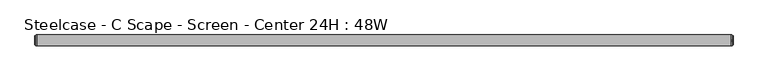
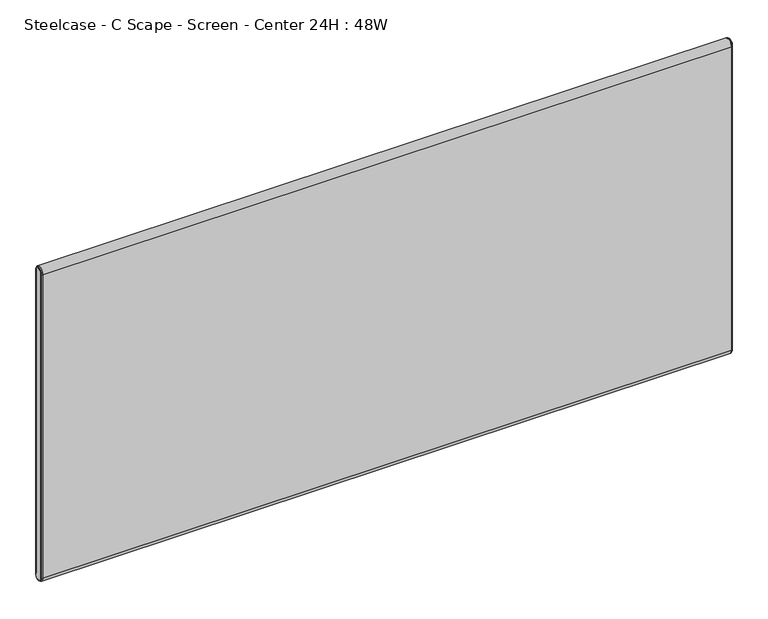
"""IFC4 building model written with IfcOpenShell, lengths in millimetres: furniture geometry, Steelcase - C Scape - Screen - Center 24H : 48W."""

import ifcopenshell
import ifcopenshell.guid

model = None  # the IFC model being written
_history = None  # IfcOwnerHistory: only IFC2X3 demands one
_inside = {}  # id of a spatial element -> (the spatial element, [elements in it])
_under = {}  # id of a project, library or spatial element -> (it, [spatial elements below it])
_declared = {}  # id of a project -> (the project, [libraries it declares])
_typed = {}  # id of a type object -> (the type object, [elements of that type])
_made_of = {}  # id of a material, layer set ... -> (it, [elements and type objects made of it])


def new_model(schema):
    """Start an empty IFC model of exactly this schema.

    Asked for "IFC4X3", IfcOpenShell would pick the latest addendum, in which some entities
    have other attributes; the version numbers below select the first issue.
    IFC2X3 requires an IfcOwnerHistory on every rooted entity: one is made here for all.
    """
    global model, _history
    if schema == "IFC4X3":
        model = ifcopenshell.file(schema_version=(4, 3, 0, 0))
    else:
        model = ifcopenshell.file(schema=schema)
    _inside.clear()
    _under.clear()
    _declared.clear()
    _typed.clear()
    _made_of.clear()
    _history = None
    if model.schema == "IFC2X3":
        org = make("IfcOrganization", Name="unknown")
        user = make(
            "IfcPersonAndOrganization",
            ThePerson=make("IfcPerson", FamilyName="unknown"),
            TheOrganization=org,
        )
        app = make(
            "IfcApplication",
            ApplicationDeveloper=org,
            Version="unknown",
            ApplicationFullName="unknown",
            ApplicationIdentifier="unknown",
        )
        _history = make(
            "IfcOwnerHistory",
            OwningUser=user,
            OwningApplication=app,
            ChangeAction="ADDED",
            CreationDate=0,
        )
    return model


def make(cls, **values):
    """One entity of the class cls with the attributes given. An attribute that is None is left unset."""
    return model.create_entity(
        cls, **{name: value for name, value in values.items() if value is not None}
    )


def rooted(cls, **values):
    """An entity with a GlobalId (a new one), such as an element, a storey or a relation."""
    return make(cls, GlobalId=ifcopenshell.guid.new(), OwnerHistory=_history, **values)


def si_unit(unit_type, name, prefix=None):
    """IfcSIUnit, for example si_unit("LENGTHUNIT", "METRE", prefix="MILLI")."""
    return make("IfcSIUnit", UnitType=unit_type, Prefix=prefix, Name=name)


def assignment(units):
    """IfcUnitAssignment: the units of a project."""
    return None if units is None else make("IfcUnitAssignment", Units=units)


def point(xyz):
    """IfcCartesianPoint."""
    return None if xyz is None else make("IfcCartesianPoint", Coordinates=xyz)


def direction(xyz):
    """IfcDirection."""
    return None if xyz is None else make("IfcDirection", DirectionRatios=xyz)


def frame(location, z_axis=None, x_axis=None):
    """IfcAxis2Placement3D, a coordinate frame: its origin and axes. An axis left out is left unset."""
    return make(
        "IfcAxis2Placement3D",
        Location=point(location),
        Axis=direction(z_axis),
        RefDirection=direction(x_axis),
    )


def frame_2d(location, x_axis=None):
    """IfcAxis2Placement2D, a coordinate frame in the plane: its origin and x axis."""
    return make(
        "IfcAxis2Placement2D", Location=point(location), RefDirection=direction(x_axis)
    )


def origin():
    """The frame at (0, 0, 0) with its axes left unset."""
    return frame((0.0, 0.0, 0.0))


def place(relative_to, where):
    """IfcLocalPlacement: puts the frame where relative to a parent placement (None: the world)."""
    return make(
        "IfcLocalPlacement", PlacementRelTo=relative_to, RelativePlacement=where
    )


def context(
    kind, dimensions, precision=None, world=None, true_north=None, identifier=None
):
    """IfcGeometricRepresentationContext, for example the 3D "Model" context."""
    return make(
        "IfcGeometricRepresentationContext",
        ContextIdentifier=identifier,
        ContextType=kind,
        CoordinateSpaceDimension=dimensions,
        Precision=precision,
        WorldCoordinateSystem=world,
        TrueNorth=true_north,
    )


def project(units=None, contexts=None):
    """IfcProject with its units and contexts."""
    return rooted(
        "IfcProject",
        Name="project",
        RepresentationContexts=contexts,
        UnitsInContext=assignment(units),
    )


def spatial(cls, under=None, at=None, **own):
    """A site, building, storey or space (cls), placed at a placement, below another one or the project."""
    s = rooted(cls, ObjectPlacement=at, **own)
    if under is not None:
        _under.setdefault(under.id(), (under, []))[1].append(s)
    return s


def polyline(points):
    """IfcPolyline through the points."""
    return make("IfcPolyline", Points=[point(p) for p in points])


def circle_curve(where, radius):
    """IfcCircle in the frame where."""
    return make("IfcCircle", Position=where, Radius=radius)


def ellipse_curve(where, semi_axis1, semi_axis2):
    """IfcEllipse in the frame where."""
    return make(
        "IfcEllipse", Position=where, SemiAxis1=semi_axis1, SemiAxis2=semi_axis2
    )


def trimmed(basis, trim1, trim2, sense, master):
    """IfcTrimmedCurve: the piece of a basis curve between two trims."""
    return make(
        "IfcTrimmedCurve",
        BasisCurve=basis,
        Trim1=trim1,
        Trim2=trim2,
        SenseAgreement=sense,
        MasterRepresentation=master,
    )


def segment(curve, same_sense, transition):
    """IfcCompositeCurveSegment."""
    return make(
        "IfcCompositeCurveSegment",
        Transition=transition,
        SameSense=same_sense,
        ParentCurve=curve,
    )


def composite_curve(segments, self_intersect=None):
    """IfcCompositeCurve: segments joined end to end."""
    return make("IfcCompositeCurve", Segments=segments, SelfIntersect=self_intersect)


def outline(outer, holes=None, kind="AREA"):
    """IfcArbitraryClosedProfileDef: a profile drawn as a closed curve; with holes, ...WithVoids."""
    if holes is None:
        return make("IfcArbitraryClosedProfileDef", ProfileType=kind, OuterCurve=outer)
    return make(
        "IfcArbitraryProfileDefWithVoids",
        ProfileType=kind,
        OuterCurve=outer,
        InnerCurves=holes,
    )


def extrude(swept, where, along, depth):
    """IfcExtrudedAreaSolid: the profile swept, set in the frame where, extruded along a direction by depth."""
    return make(
        "IfcExtrudedAreaSolid",
        SweptArea=swept,
        Position=where,
        ExtrudedDirection=direction(along),
        Depth=depth,
    )


def shape(context_of_items, identifier, shape_type, items):
    """IfcShapeRepresentation: the items that make up one representation, for example the "Body"."""
    return make(
        "IfcShapeRepresentation",
        ContextOfItems=context_of_items,
        RepresentationIdentifier=identifier,
        RepresentationType=shape_type,
        Items=items,
    )


def source(mapping_origin, context_of_items, identifier, shape_type, items):
    """IfcRepresentationMap: a shape defined once, which mapped items show again and again."""
    return make(
        "IfcRepresentationMap",
        MappingOrigin=mapping_origin,
        MappedRepresentation=shape(context_of_items, identifier, shape_type, items),
    )


def transform(
    local_origin,
    x_axis=None,
    y_axis=None,
    z_axis=None,
    scale=None,
    scale2=None,
    scale3=None,
    uniform=True,
):
    """IfcCartesianTransformationOperator3D, or its non-uniform kind. x_axis, y_axis, z_axis: its Axis1, 2, 3."""
    if uniform:
        return make(
            "IfcCartesianTransformationOperator3D",
            Axis1=direction(x_axis),
            Axis2=direction(y_axis),
            LocalOrigin=point(local_origin),
            Scale=scale,
            Axis3=direction(z_axis),
        )
    return make(
        "IfcCartesianTransformationOperator3DnonUniform",
        Axis1=direction(x_axis),
        Axis2=direction(y_axis),
        LocalOrigin=point(local_origin),
        Scale=scale,
        Axis3=direction(z_axis),
        Scale2=scale2,
        Scale3=scale3,
    )


def mapped(mapping_source, mapping_target):
    """IfcMappedItem: shows the shape of a source again, moved by a transform."""
    return make(
        "IfcMappedItem", MappingSource=mapping_source, MappingTarget=mapping_target
    )


def made_of(thing, what):
    """Note that an element or type object is made of a material, layer set ...; save() writes the relation."""
    if what is not None:
        _made_of.setdefault(what.id(), (what, []))[1].append(thing)
    return thing


def element(
    cls,
    number,
    at=None,
    inside=None,
    cuts=None,
    type_object=None,
    material=None,
    context=None,
    identifier="Body",
    shape_type=None,
    held_by="IfcProductDefinitionShape",
    body=None,
    shapes=None,
    **own,
):
    """One element of the class cls, such as IfcWall. Its Tag is "e" and its number.

    at: its placement. inside: the storey or other place that contains it. cuts: it is an
    opening in that element (IfcRelVoidsElement). A single representation is given by context,
    identifier, shape_type and body (its items); several are given by shapes. held_by: the class
    of the entity that holds the representations. save() writes the other relations.
    """
    e = rooted(cls, Tag="e%d" % number, ObjectPlacement=at, **own)
    if body is not None:
        shapes = [shape(context, identifier, shape_type, body)]
    if shapes is not None:
        e.Representation = make(held_by, Representations=shapes)
    if inside is not None:
        _inside.setdefault(inside.id(), (inside, []))[1].append(e)
    if cuts is not None:
        rooted(
            "IfcRelVoidsElement", RelatingBuildingElement=cuts, RelatedOpeningElement=e
        )
    if type_object is not None:
        _typed.setdefault(type_object.id(), (type_object, []))[1].append(e)
    return made_of(e, material)


def aggregate(whole, parts):
    """IfcRelAggregates: a whole, such as a stair, and the parts it consists of."""
    return rooted("IfcRelAggregates", RelatingObject=whole, RelatedObjects=parts)


def save(model, path):
    """Write the relations noted so far, then the file.

    IfcRelAggregates (storeys below a building ...), IfcRelContainedInSpatialStructure (elements
    in a storey), IfcRelDefinesByType, IfcRelAssociatesMaterial and IfcRelDeclares: one each for
    every whole, place, type object, material and project.
    """
    for whole, parts in _under.values():
        aggregate(whole, parts)
    for where, things in _inside.values():
        rooted(
            "IfcRelContainedInSpatialStructure",
            RelatedElements=things,
            RelatingStructure=where,
        )
    for kind, things in _typed.values():
        rooted("IfcRelDefinesByType", RelatedObjects=things, RelatingType=kind)
    for what, things in _made_of.values():
        rooted("IfcRelAssociatesMaterial", RelatedObjects=things, RelatingMaterial=what)
    for by, libraries in _declared.values():
        rooted("IfcRelDeclares", RelatingContext=by, RelatedDefinitions=libraries)
    model.write(path)


def plane_surface(at):
    """IfcPlane: the flat surface through the origin of the frame at, square to its z axis."""
    return make("IfcPlane", Position=at)


def cylinder_surface(at, radius):
    """IfcCylindricalSurface: all points at the distance radius from the z axis of the frame at."""
    return make("IfcCylindricalSurface", Position=at, Radius=radius)


def revolved_surface(curve, axis_point, axis_direction):
    """IfcSurfaceOfRevolution: the curve turned about the line through axis_point along axis_direction."""
    return make(
        "IfcSurfaceOfRevolution",
        SweptCurve=make("IfcArbitraryOpenProfileDef", ProfileType="CURVE", Curve=curve),
        AxisPosition=make("IfcAxis1Placement", Location=point(axis_point), Axis=direction(axis_direction)),
    )


def advanced_brep(points, edges, surfaces, faces):
    """IfcAdvancedBrep: a solid bounded by faces that lie on surfaces and meet in shared edges.

    An edge is (start, end): straight between two places in points (the first is 0);
    or (start, end, curve); or (start, end, curve, False) where it runs against its curve.
    A face is (place in surfaces, loops), or (place, loops, False) where it looks against
    its surface's normal. A loop lists edges by number (the first is 1), with a minus sign
    where the edge is run from its end to its start. The first loop is the outer one.
    """
    corners = [point(p) for p in points]
    vertices = [make("IfcVertexPoint", VertexGeometry=c) for c in corners]
    made = []
    for start, end, *more in edges:
        made.append(
            make(
                "IfcEdgeCurve",
                EdgeStart=vertices[start],
                EdgeEnd=vertices[end],
                EdgeGeometry=more[0] if more else make("IfcPolyline", Points=[corners[start], corners[end]]),
                SameSense=more[1] if len(more) > 1 else True,
            )
        )
    hull = []
    for where, loops, *sense in faces:
        bounds = []
        for j, loop in enumerate(loops):
            ring = [make("IfcOrientedEdge", EdgeElement=made[abs(k) - 1], Orientation=k > 0) for k in loop]
            bounds.append(
                make(
                    "IfcFaceOuterBound" if j == 0 else "IfcFaceBound",
                    Bound=make("IfcEdgeLoop", EdgeList=ring),
                    Orientation=True,
                )
            )
        hull.append(make("IfcAdvancedFace", Bounds=bounds, FaceSurface=surfaces[where], SameSense=sense[0] if sense else True))
    return make("IfcAdvancedBrep", Outer=make("IfcClosedShell", CfsFaces=hull))


def steelcase_c_scape_screen_center_24h_48w_cd6e4a62(model_context):
    return source(origin(), model_context, "Body", "SolidModel", [
        advanced_brep(
        [(1215.6486613, -9.525, 1298.067), (1215.6486613, 9.525, 1298.067), (1215.6486613, 9.525, 732.9169758), (1215.6486613, -9.525, 732.9169758), (1218.4426613, 7.4929583, 1298.067), (1218.4426613, -7.4929583, 1298.067), (1218.4426613, -7.4929583, 732.9169758), (1218.4426613, 7.4929583, 732.9169758), (1217.9346545, -8.0009651, 1298.067), (1217.9346545, 8.0009651, 1298.067), (1216.6646613, 8.0009651, 1298.067), (1216.6646613, -8.0009651, 1298.067), (1216.6646613, -8.8204932, 1298.067), (1216.6646613, 8.8204932, 1298.067), (1216.6646613, -8.0009651, 732.9169758), (1217.9346545, -8.0009651, 732.9169758), (1216.6646613, -8.8204932, 732.9169758), (1216.6646613, 8.0009651, 732.9169758), (1217.9346545, 8.0009651, 732.9169758), (1216.6646613, 8.8204932, 732.9169758)],
        [
            (0, 1, circle_curve(frame((1215.6486613, 0.0, 1298.067), z_axis=(-1.0, 0.0, 0.0), x_axis=(0.0, 1.0, 0.0)), 9.525)),
            (1, 2),
            (2, 3, circle_curve(frame((1215.6486613, 0.0, 732.9169758), z_axis=(-1.0, 0.0, 0.0), x_axis=(0.0, -1.0, 0.0)), 9.525)),
            (3, 0),
            (4, 5, circle_curve(frame((1218.4426613, 0.0, 1298.067), z_axis=(1.0, 0.0, 0.0), x_axis=(0.0, 1.0, 0.0)), 7.4929583)),
            (5, 6),
            (6, 7, circle_curve(frame((1218.4426613, 0.0, 732.9169758), z_axis=(1.0, 0.0, 0.0), x_axis=(0.0, -1.0, 0.0)), 7.4929583)),
            (7, 4),
            (8, 9, circle_curve(frame((1217.9346545, 0.0, 1298.067), z_axis=(-1.0, 0.0, 0.0), x_axis=(0.0, 1.0, 0.0)), 8.0009651)),
            (9, 10),
            (10, 11, circle_curve(frame((1216.6646613, 0.0, 1298.067), z_axis=(1.0, 0.0, 0.0), x_axis=(0.0, 1.0, 0.0)), 8.0009651)),
            (11, 8),
            (8, 5, circle_curve(frame((1217.9346545, -7.4929583, 1298.067), z_axis=(0.0, 0.0, 1.0), x_axis=(0.0, -1.0, 0.0)), 0.5080068)),
            (4, 9, circle_curve(frame((1217.9346545, 7.4929583, 1298.067), z_axis=(0.0, 0.0, 1.0), x_axis=(0.0, 1.0, 0.0)), 0.5080068)),
            (12, 13, circle_curve(frame((1216.6646613, 0.0, 1298.067), z_axis=(-1.0, 0.0, 0.0), x_axis=(0.0, 1.0, 0.0)), 8.8204932)),
            (13, 1, circle_curve(frame((1215.5806211, 8.3420139, 1298.067), z_axis=(0.0, 0.0, 1.0), x_axis=(0.0, 1.0, 0.0)), 1.1849411)),
            (0, 12, circle_curve(frame((1215.5806211, -8.3420139, 1298.067), z_axis=(0.0, 0.0, 1.0), x_axis=(0.0, -1.0, 0.0)), 1.1849411)),
            (11, 14),
            (14, 15),
            (15, 8),
            (15, 6, circle_curve(frame((1217.9346545, -7.4929583, 732.9169758), z_axis=(0.0, 0.0, 1.0), x_axis=(0.0, -1.0, 0.0)), 0.5080068)),
            (3, 16, circle_curve(frame((1215.5806211, -8.3420139, 732.9169758), z_axis=(0.0, 0.0, 1.0), x_axis=(0.0, -1.0, 0.0)), 1.1849411)),
            (16, 12),
            (14, 17, circle_curve(frame((1216.6646613, 0.0, 732.9169758), z_axis=(1.0, 0.0, 0.0), x_axis=(0.0, -1.0, 0.0)), 8.0009651)),
            (17, 18),
            (18, 15, circle_curve(frame((1217.9346545, 0.0, 732.9169758), z_axis=(-1.0, 0.0, 0.0), x_axis=(0.0, -1.0, 0.0)), 8.0009651)),
            (18, 7, circle_curve(frame((1217.9346545, 7.4929583, 732.9169758), z_axis=(0.0, 0.0, -1.0), x_axis=(0.0, 1.0, 0.0)), 0.5080068)),
            (2, 19, circle_curve(frame((1215.5806211, 8.3420139, 732.9169758), z_axis=(0.0, 0.0, -1.0), x_axis=(0.0, 1.0, 0.0)), 1.1849411)),
            (19, 16, circle_curve(frame((1216.6646613, 0.0, 732.9169758), z_axis=(-1.0, 0.0, 0.0), x_axis=(0.0, -1.0, 0.0)), 8.8204932)),
            (9, 18),
            (17, 10),
            (13, 19),
        ],
        [
            plane_surface(frame((1215.6486613, -6.3509705, 1298.067), z_axis=(-1.0, 0.0, 0.0), x_axis=(0.0, 0.0, 1.0))),
            plane_surface(frame((1218.4426613, -6.3509705, 1298.067), z_axis=(1.0, 0.0, 0.0), x_axis=(0.0, 0.0, -1.0))),
            cylinder_surface(frame((1215.6486613, 0.0, 1298.067), z_axis=(1.0, 0.0, 0.0), x_axis=(0.0, 1.0, 0.0)), 8.0009651),
            revolved_surface(trimmed(ellipse_curve(frame((1217.9346545, 7.4929583, 1298.067), z_axis=(0.0, 0.0, -1.0), x_axis=(0.0, 1.0, 0.0)), 0.5080068, 0.5080068), [point((1217.9346545, 8.0009651, 1298.067))], [point((1218.4426613, 7.4929583, 1298.067))], True, "CARTESIAN"), (1215.6486613, 0.0, 1298.067), (1.0, 0.0, 0.0)),
            revolved_surface(trimmed(ellipse_curve(frame((1215.5806211, 8.3420139, 1298.067), z_axis=(0.0, 0.0, -1.0), x_axis=(0.0, 1.0, 0.0)), 1.1849411, 1.1849411), [point((1215.6486613, 9.525, 1298.067))], [point((1216.6646613, 8.8204932, 1298.067))], True, "CARTESIAN"), (1215.6486613, 0.0, 1298.067), (1.0, 0.0, 0.0)),
            plane_surface(frame((1216.6646613, -8.0009651, 1298.067), z_axis=(0.0, -1.0, 0.0), x_axis=(0.0, 0.0, -1.0))),
            cylinder_surface(frame((1217.9346545, -7.4929583, 1298.067), z_axis=(0.0, 0.0, 1.0), x_axis=(0.0, -1.0, 0.0)), 0.5080068),
            cylinder_surface(frame((1215.5806211, -8.3420139, 1298.067), z_axis=(0.0, 0.0, 1.0), x_axis=(0.0, -1.0, 0.0)), 1.1849411),
            cylinder_surface(frame((1215.6486613, 0.0, 732.9169758), z_axis=(1.0, 0.0, 0.0), x_axis=(0.0, -1.0, 0.0)), 8.0009651),
            revolved_surface(trimmed(ellipse_curve(frame((1217.9346545, -7.4929583, 732.9169758), z_axis=(0.0, 0.0, 1.0), x_axis=(0.0, -1.0, 0.0)), 0.5080068, 0.5080068), [point((1217.9346545, -8.0009651, 732.9169758))], [point((1218.4426613, -7.4929583, 732.9169758))], True, "CARTESIAN"), (1215.6486613, 0.0, 732.9169758), (1.0, 0.0, 0.0)),
            revolved_surface(trimmed(ellipse_curve(frame((1215.5806211, -8.3420139, 732.9169758), z_axis=(0.0, 0.0, 1.0), x_axis=(0.0, -1.0, 0.0)), 1.1849411, 1.1849411), [point((1215.6486613, -9.525, 732.9169758))], [point((1216.6646613, -8.8204932, 732.9169758))], True, "CARTESIAN"), (1215.6486613, 0.0, 732.9169758), (1.0, 0.0, 0.0)),
            plane_surface(frame((1216.6646613, 8.0009651, 732.9169758), z_axis=(0.0, 1.0, 0.0), x_axis=(0.0, 0.0, 1.0))),
            cylinder_surface(frame((1217.9346545, 7.4929583, 732.9169758), z_axis=(0.0, 0.0, -1.0), x_axis=(0.0, 1.0, 0.0)), 0.5080068),
            cylinder_surface(frame((1215.5806211, 8.3420139, 732.9169758), z_axis=(0.0, 0.0, -1.0), x_axis=(0.0, 1.0, 0.0)), 1.1849411),
            plane_surface(frame((1216.6646613, 8.8204932, 732.9169758), z_axis=(1.0, 0.0, 0.0), x_axis=(0.0, 0.0, 1.0))),
        ],
        [
            (0, [[1, 2, 3, 4]]),
            (1, [[5, 6, 7, 8]]),
            (2, [[9, 10, 11, 12]]),
            (3, [[-9, 13, -5, 14]]),
            (4, [[15, 16, -1, 17]]),
            (5, [[-12, 18, 19, 20]]),
            (6, [[-13, -20, 21, -6]]),
            (7, [[-17, -4, 22, 23]]),
            (8, [[-19, 24, 25, 26]]),
            (9, [[-21, -26, 27, -7]]),
            (10, [[-22, -3, 28, 29]]),
            (11, [[-10, 30, -25, 31]]),
            (12, [[-14, -8, -27, -30]]),
            (13, [[-16, 32, -28, -2]]),
            (14, [[-15, -23, -29, -32], [-11, -31, -24, -18]]),
        ],
    ),
        advanced_brep(
        [(2.7940155, 9.525, 1298.067), (2.7940155, -9.525, 1298.067), (2.7940155, -9.525, 732.917), (2.7940155, 9.525, 732.917), (0.0, -7.4929583, 1298.067), (0.0, 7.4929583, 1298.067), (0.0, 7.4929583, 732.917), (0.0, -7.4929583, 732.917), (1.778, 8.8204932, 1298.067), (1.778, -8.8204932, 1298.067), (0.5080068, -8.0009651, 1298.067), (0.5080068, 8.0009651, 1298.067), (1.778, -8.0009651, 1298.067), (1.778, 8.0009651, 1298.067), (1.778, -8.8204932, 732.917), (0.5080068, -8.0009651, 732.917), (1.778, -8.0009651, 732.917), (1.778, 8.8204932, 732.917), (0.5080068, 8.0009651, 732.917), (1.778, 8.0009651, 732.917)],
        [
            (0, 1, circle_curve(frame((2.7940155, 0.0, 1298.067), z_axis=(1.0, 0.0, 0.0), x_axis=(0.0, 1.0, 0.0)), 9.525)),
            (1, 2),
            (2, 3, circle_curve(frame((2.7940155, 0.0, 732.917), z_axis=(1.0, 0.0, 0.0), x_axis=(0.0, -1.0, 0.0)), 9.525)),
            (3, 0),
            (4, 5, circle_curve(frame((0.0, 0.0, 1298.067), z_axis=(-1.0, 0.0, 0.0), x_axis=(0.0, 1.0, 0.0)), 7.4929583)),
            (5, 6),
            (6, 7, circle_curve(frame((0.0, 0.0, 732.917), z_axis=(-1.0, 0.0, 0.0), x_axis=(0.0, -1.0, 0.0)), 7.4929583)),
            (7, 4),
            (0, 8, circle_curve(frame((2.8620402, 8.3420139, 1298.067), z_axis=(0.0, 0.0, 1.0), x_axis=(0.0, -1.0, 0.0)), 1.1849411)),
            (8, 9, circle_curve(frame((1.778, 0.0, 1298.067), z_axis=(1.0, 0.0, 0.0), x_axis=(0.0, 1.0, 0.0)), 8.8204932)),
            (9, 1, circle_curve(frame((2.8620402, -8.3420139, 1298.067), z_axis=(0.0, 0.0, 1.0), x_axis=(0.0, 1.0, 0.0)), 1.1849411)),
            (10, 11, circle_curve(frame((0.5080068, 0.0, 1298.067), z_axis=(-1.0, 0.0, 0.0), x_axis=(0.0, 1.0, 0.0)), 8.0009651)),
            (11, 5, circle_curve(frame((0.5080068, 7.4929583, 1298.067), z_axis=(0.0, 0.0, 1.0), x_axis=(0.0, -1.0, 0.0)), 0.5080068)),
            (4, 10, circle_curve(frame((0.5080068, -7.4929583, 1298.067), z_axis=(0.0, 0.0, 1.0), x_axis=(0.0, 1.0, 0.0)), 0.5080068)),
            (10, 12),
            (12, 13, circle_curve(frame((1.778, 0.0, 1298.067), z_axis=(-1.0, 0.0, 0.0), x_axis=(0.0, 1.0, 0.0)), 8.0009651)),
            (13, 11),
            (9, 14),
            (14, 2, circle_curve(frame((2.8620402, -8.3420139, 732.917), z_axis=(0.0, 0.0, 1.0), x_axis=(0.0, 1.0, 0.0)), 1.1849411)),
            (7, 15, circle_curve(frame((0.5080068, -7.4929583, 732.917), z_axis=(0.0, 0.0, 1.0), x_axis=(0.0, 1.0, 0.0)), 0.5080068)),
            (15, 10),
            (15, 16),
            (16, 12),
            (14, 17, circle_curve(frame((1.778, 0.0, 732.917), z_axis=(1.0, 0.0, 0.0), x_axis=(0.0, -1.0, 0.0)), 8.8204932)),
            (17, 3, circle_curve(frame((2.8620402, 8.3420139, 732.917), z_axis=(0.0, 0.0, -1.0), x_axis=(0.0, -1.0, 0.0)), 1.1849411)),
            (6, 18, circle_curve(frame((0.5080068, 7.4929583, 732.917), z_axis=(0.0, 0.0, -1.0), x_axis=(0.0, -1.0, 0.0)), 0.5080068)),
            (18, 15, circle_curve(frame((0.5080068, 0.0, 732.917), z_axis=(-1.0, 0.0, 0.0), x_axis=(0.0, -1.0, 0.0)), 8.0009651)),
            (18, 19),
            (19, 16, circle_curve(frame((1.778, 0.0, 732.917), z_axis=(-1.0, 0.0, 0.0), x_axis=(0.0, -1.0, 0.0)), 8.0009651)),
            (8, 17),
            (19, 13),
            (11, 18),
        ],
        [
            plane_surface(frame((2.7940155, -6.3509705, 1298.067), z_axis=(1.0, 0.0, 0.0), x_axis=(0.0, 0.0, -1.0))),
            plane_surface(frame((0.0, -6.3509705, 1298.067), z_axis=(-1.0, 0.0, 0.0), x_axis=(0.0, 0.0, 1.0))),
            revolved_surface(trimmed(ellipse_curve(frame((2.8620402, 8.3420139, 1298.067), z_axis=(0.0, 0.0, -1.0), x_axis=(0.0, -1.0, 0.0)), 1.1849411, 1.1849411), [point((1.778, 8.8204932, 1298.067))], [point((2.794, 9.525, 1298.067))], True, "CARTESIAN"), (2.794, 0.0, 1298.067), (1.0, 0.0, 0.0)),
            revolved_surface(trimmed(ellipse_curve(frame((0.5080068, 7.4929583, 1298.067), z_axis=(0.0, 0.0, -1.0), x_axis=(0.0, -1.0, 0.0)), 0.5080068, 0.5080068), [point((0.0, 7.4929583, 1298.067))], [point((0.5080068, 8.0009651, 1298.067))], True, "CARTESIAN"), (2.794, 0.0, 1298.067), (1.0, 0.0, 0.0)),
            cylinder_surface(frame((2.794, 0.0, 1298.067), z_axis=(1.0, 0.0, 0.0), x_axis=(0.0, 1.0, 0.0)), 8.0009651),
            cylinder_surface(frame((2.8620402, -8.3420139, 1298.067), z_axis=(0.0, 0.0, 1.0), x_axis=(0.0, 1.0, 0.0)), 1.1849411),
            cylinder_surface(frame((0.5080068, -7.4929583, 1298.067), z_axis=(0.0, 0.0, 1.0), x_axis=(0.0, 1.0, 0.0)), 0.5080068),
            plane_surface(frame((0.5080068, -8.0009651, 1298.067), z_axis=(0.0, -1.0, 0.0), x_axis=(0.0, 0.0, -1.0))),
            revolved_surface(trimmed(ellipse_curve(frame((2.8620402, -8.3420139, 732.917), z_axis=(0.0, 0.0, 1.0), x_axis=(0.0, 1.0, 0.0)), 1.1849411, 1.1849411), [point((1.778, -8.8204932, 732.917))], [point((2.794, -9.525, 732.917))], True, "CARTESIAN"), (2.794, 0.0, 732.917), (1.0, 0.0, 0.0)),
            revolved_surface(trimmed(ellipse_curve(frame((0.5080068, -7.4929583, 732.917), z_axis=(0.0, 0.0, 1.0), x_axis=(0.0, 1.0, 0.0)), 0.5080068, 0.5080068), [point((0.0, -7.4929583, 732.917))], [point((0.5080068, -8.0009651, 732.917))], True, "CARTESIAN"), (2.794, 0.0, 732.917), (1.0, 0.0, 0.0)),
            cylinder_surface(frame((2.794, 0.0, 732.917), z_axis=(1.0, 0.0, 0.0), x_axis=(0.0, -1.0, 0.0)), 8.0009651),
            plane_surface(frame((1.778, 8.0009651, 732.917), z_axis=(-1.0, 0.0, 0.0), x_axis=(0.0, 0.0, 1.0))),
            cylinder_surface(frame((2.8620402, 8.3420139, 732.917), z_axis=(0.0, 0.0, -1.0), x_axis=(0.0, -1.0, 0.0)), 1.1849411),
            cylinder_surface(frame((0.5080068, 7.4929583, 732.917), z_axis=(0.0, 0.0, -1.0), x_axis=(0.0, -1.0, 0.0)), 0.5080068),
            plane_surface(frame((0.5080068, 8.0009651, 732.917), z_axis=(0.0, 1.0, 0.0), x_axis=(0.0, 0.0, 1.0))),
        ],
        [
            (0, [[1, 2, 3, 4]]),
            (1, [[5, 6, 7, 8]]),
            (2, [[-1, 9, 10, 11]]),
            (3, [[12, 13, -5, 14]]),
            (4, [[-12, 15, 16, 17]]),
            (5, [[-11, 18, 19, -2]]),
            (6, [[-14, -8, 20, 21]]),
            (7, [[-15, -21, 22, 23]]),
            (8, [[-19, 24, 25, -3]]),
            (9, [[-20, -7, 26, 27]]),
            (10, [[-22, -27, 28, 29]]),
            (11, [[-10, 30, -24, -18], [-16, -23, -29, 31]]),
            (12, [[-9, -4, -25, -30]]),
            (13, [[-13, 32, -26, -6]]),
            (14, [[-17, -31, -28, -32]]),
        ],
    ),
        extrude(outline(composite_curve([segment(trimmed(circle_curve(frame_2d((0.0, 1298.067)), 9.525), [point((-9.525, 1298.067))], [point((9.525, 1298.067))], False, "CARTESIAN"), True, "CONTINUOUS"), segment(polyline([(9.525, 1298.067), (9.525, 732.917)]), True, "CONTINUOUS"), segment(trimmed(circle_curve(frame_2d((0.0, 732.917)), 9.525), [point((9.525, 732.917))], [point((-9.525, 732.917))], False, "CARTESIAN"), True, "CONTINUOUS"), segment(polyline([(-9.525, 732.917), (-9.525, 1298.067)]), True, "CONTINUOUS")], self_intersect=False)), frame((2.794, 0.0, 0.0), z_axis=(1.0, 0.0, 0.0), x_axis=(0.0, 1.0, 0.0)), (0.0, 0.0, 1.0), 1212.8546613),
    ])


if __name__ == "__main__":
    model = new_model("IFC4")
    model_context = context("Model", 3, world=origin())
    ifc_project = project(units=[si_unit("LENGTHUNIT", "METRE", prefix="MILLI")], contexts=[model_context])
    site = spatial("IfcSite", under=ifc_project)
    building = spatial("IfcBuilding", under=site)
    placement = place(None, origin())
    steelcase_c_scape_screen_center_24h_48w_shape = steelcase_c_scape_screen_center_24h_48w_cd6e4a62(model_context)
    element("IfcFurniture", 1, ObjectType="Steelcase - C Scape - Screen - Center 24H : 48W", at=placement, inside=building, context=model_context, shape_type="MappedRepresentation", body=[
        mapped(steelcase_c_scape_screen_center_24h_48w_shape, transform((0.0, 0.0, 0.0), x_axis=(1.0, 0.0, 0.0), y_axis=(0.0, 1.0, 0.0), z_axis=(0.0, 0.0, 1.0))),
    ])
    save(model, "model.ifc")
